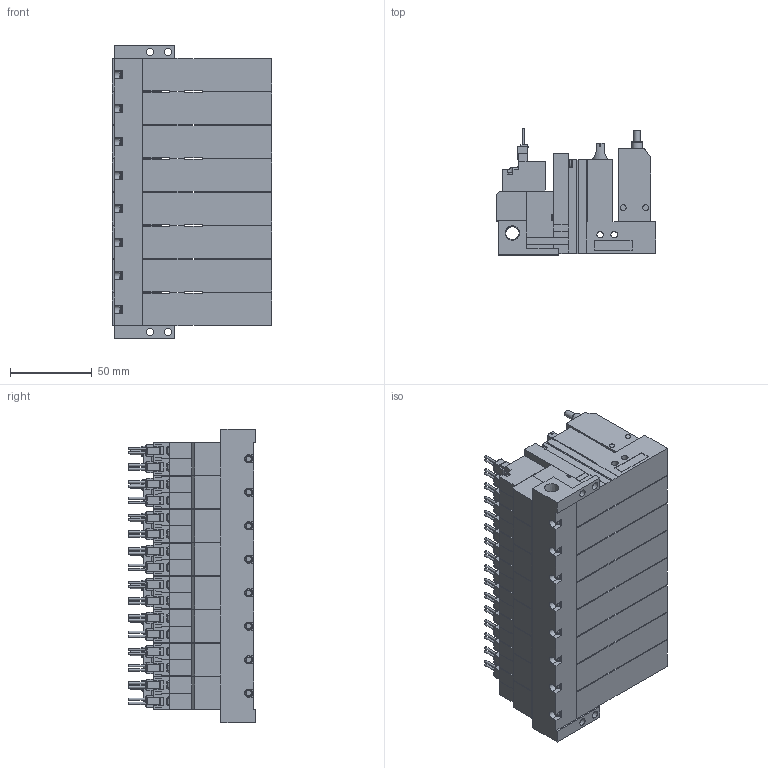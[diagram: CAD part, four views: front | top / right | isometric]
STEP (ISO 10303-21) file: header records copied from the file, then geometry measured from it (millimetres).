
FILE_DESCRIPTION(('STEP AP203'),'1');
FILE_NAME('ABS_ABPLC5BLR808.stp','2025-02-25T05:09:02',(' '),(' '),'Spatial InterOp 3D',' ',' ');
FILE_SCHEMA(('CONFIG_CONTROL_DESIGN'));
Length unit declared in the file: millimetre
Products named in the file (5): BMC22M※※※※ABS_ABPLC5BLR808; Solenoid valve B; Pressure sensor ABSLC; Unit LC; Base MR80R
Assembly tree (25 placements, depth 2):
  BMC22M※※※※ABS_ABPLC5BLR808
    Solenoid valve B  x8
    Pressure sensor ABSLC  x8
    Unit LC  x8
    Base MR80R
Bounding box: 97.6 x 77.45 x 179.5 mm (x, y, z)
Volume: 810121.8 mm3; surface area: 210994.2 mm2
Topology: 25 solids, 25 shells, 3117 faces, 8363 edges, 5496 vertices
Faces by surface type: plane 2654, cylinder 357, cone 58, torus 48
Full cylindrical faces by diameter (mm): 1.4 x32, 2.5 x8, 3 x32, 3.5 x48, 3.6 x8, 4 x24, 4.134 x8, 4.5 x4, 5.2 x8, 6 x8, 6.5 x8, 6.6 x8, 8.279 x1
Entity records: 16095 total; most frequent: CARTESIAN_POINT 3153, DIRECTION 2569, ORIENTED_EDGE 2460, EDGE_CURVE 1230, LINE 969, VECTOR 969, VERTEX_POINT 868, AXIS2_PLACEMENT_3D 800
